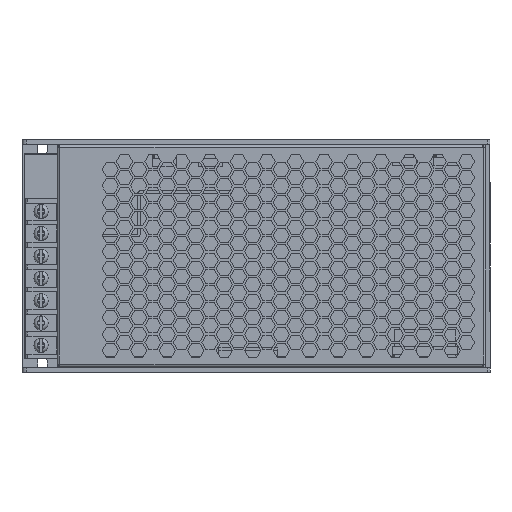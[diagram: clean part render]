
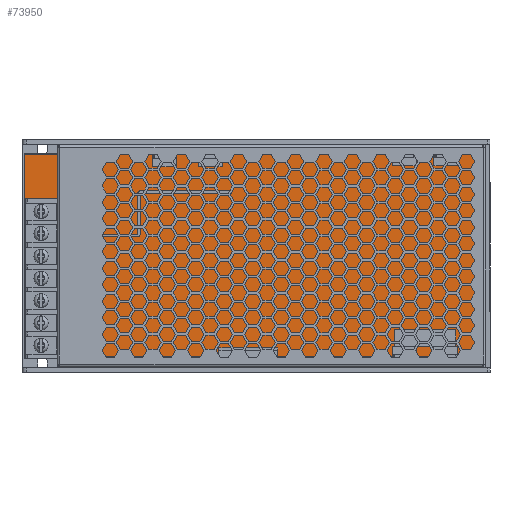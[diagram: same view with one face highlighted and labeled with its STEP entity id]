
A CAD part, top view. The second image highlights one B-rep face of the part: STEP entity #73950.
In plain terms, the highlighted planar face has unit normal (0, 0, 1).
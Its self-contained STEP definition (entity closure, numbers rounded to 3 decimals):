
#73560=CARTESIAN_POINT('',(208.331,246.932,
8.6));
#73570=DIRECTION('',(0.,0.,1.));
#73580=DIRECTION('',(1.,0.,0.));
#73590=AXIS2_PLACEMENT_3D('',#73560,#73570,#73580);
#73600=PLANE('',#73590);
#73610=CARTESIAN_POINT('',(63.578,276.074,
8.6));
#73620=DIRECTION('',(0.,-1.,0.));
#73630=VECTOR('',#73620,1.);
#73640=LINE('',#73610,#73630);
#73650=CARTESIAN_POINT('',(63.578,280.542,
8.6));
#73660=VERTEX_POINT('',#73650);
#73670=CARTESIAN_POINT('',(63.578,194.542,
8.6));
#73680=VERTEX_POINT('',#73670);
#73690=EDGE_CURVE('',#73660,#73680,#73640,.T.);
#73700=ORIENTED_EDGE('',*,*,#73690,.T.);
#73710=CARTESIAN_POINT('',(254.759,280.542,
8.6));
#73720=DIRECTION('',(1.,0.,0.));
#73730=VECTOR('',#73720,1.);
#73740=LINE('',#73710,#73730);
#73750=CARTESIAN_POINT('',(258.578,280.542,
8.6));
#73760=VERTEX_POINT('',#73750);
#73770=EDGE_CURVE('',#73660,#73760,#73740,.T.);
#73780=ORIENTED_EDGE('',*,*,#73770,.F.);
#73790=CARTESIAN_POINT('',(258.578,276.074,
8.6));
#73800=DIRECTION('',(0.,1.,0.));
#73810=VECTOR('',#73800,1.);
#73820=LINE('',#73790,#73810);
#73830=CARTESIAN_POINT('',(258.578,194.542,
8.6));
#73840=VERTEX_POINT('',#73830);
#73850=EDGE_CURVE('',#73840,#73760,#73820,.T.);
#73860=ORIENTED_EDGE('',*,*,#73850,.T.);
#73870=CARTESIAN_POINT('',(254.759,194.542,
8.6));
#73880=DIRECTION('',(-1.,0.,0.));
#73890=VECTOR('',#73880,1.);
#73900=LINE('',#73870,#73890);
#73910=EDGE_CURVE('',#73840,#73680,#73900,.T.);
#73920=ORIENTED_EDGE('',*,*,#73910,.F.);
#73930=EDGE_LOOP('',(#73920,#73860,#73780,#73700));
#73940=FACE_OUTER_BOUND('',#73930,.T.);
#73950=ADVANCED_FACE('',(#73940),#73600,.T.);
